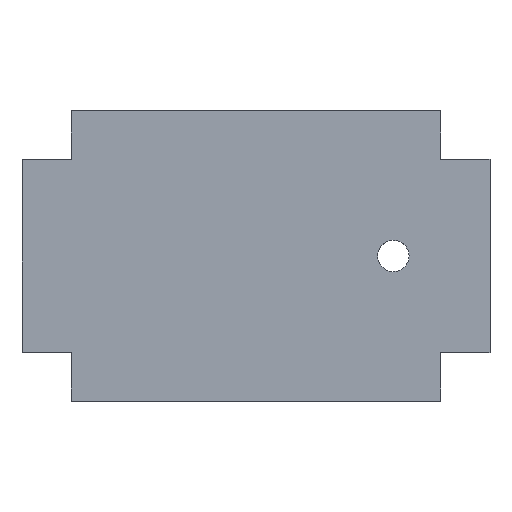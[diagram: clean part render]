
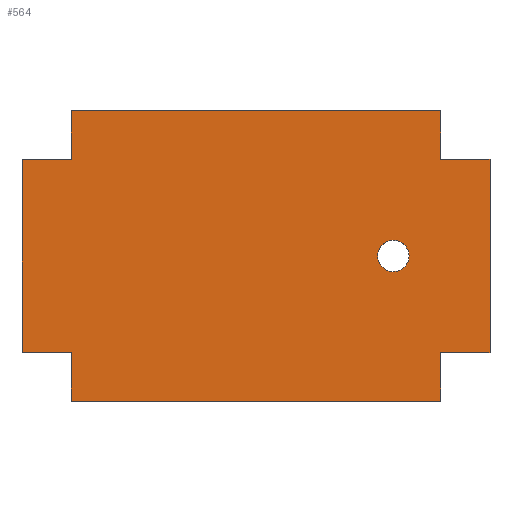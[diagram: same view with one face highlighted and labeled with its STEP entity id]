
A CAD part, top view. The second image highlights one B-rep face of the part: STEP entity #564.
In plain terms, the highlighted planar face has unit normal (0, 0, 1).
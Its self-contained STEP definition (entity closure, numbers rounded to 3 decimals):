
#57=CARTESIAN_POINT('Line Origine',(141.381,148.875,391.147)) ;
#61=CARTESIAN_POINT('Vertex',(141.381,158.875,391.147)) ;
#63=CARTESIAN_POINT('Vertex',(141.381,138.875,391.147)) ;
#97=CARTESIAN_POINT('Line Origine',(136.281,138.875,391.147)) ;
#101=CARTESIAN_POINT('Vertex',(131.181,138.875,391.147)) ;
#128=CARTESIAN_POINT('Line Origine',(131.181,133.866,391.147)) ;
#132=CARTESIAN_POINT('Vertex',(131.181,128.856,391.147)) ;
#159=CARTESIAN_POINT('Line Origine',(92.99,128.856,391.147)) ;
#163=CARTESIAN_POINT('Vertex',(54.8,128.856,391.147)) ;
#190=CARTESIAN_POINT('Line Origine',(54.8,133.866,391.147)) ;
#194=CARTESIAN_POINT('Vertex',(54.8,138.875,391.147)) ;
#216=CARTESIAN_POINT('Line Origine',(49.7,138.875,391.147)) ;
#220=CARTESIAN_POINT('Vertex',(44.6,138.875,391.147)) ;
#247=CARTESIAN_POINT('Line Origine',(44.6,148.875,391.147)) ;
#251=CARTESIAN_POINT('Vertex',(44.6,158.875,391.147)) ;
#273=CARTESIAN_POINT('Line Origine',(44.6,168.875,391.147)) ;
#277=CARTESIAN_POINT('Vertex',(44.6,178.875,391.147)) ;
#304=CARTESIAN_POINT('Line Origine',(49.7,178.875,391.147)) ;
#308=CARTESIAN_POINT('Vertex',(54.8,178.875,391.147)) ;
#330=CARTESIAN_POINT('Line Origine',(54.8,183.885,391.147)) ;
#334=CARTESIAN_POINT('Vertex',(54.8,188.894,391.147)) ;
#361=CARTESIAN_POINT('Line Origine',(92.99,188.894,391.147)) ;
#365=CARTESIAN_POINT('Vertex',(131.181,188.894,391.147)) ;
#387=CARTESIAN_POINT('Line Origine',(131.181,183.885,391.147)) ;
#391=CARTESIAN_POINT('Vertex',(131.181,178.875,391.147)) ;
#413=CARTESIAN_POINT('Line Origine',(136.281,178.875,391.147)) ;
#417=CARTESIAN_POINT('Vertex',(141.381,178.875,391.147)) ;
#439=CARTESIAN_POINT('Line Origine',(141.381,168.875,391.147)) ;
#467=CARTESIAN_POINT('Vertex',(118.131,158.875,391.147)) ;
#481=CARTESIAN_POINT('Vertex',(124.631,158.875,391.147)) ;
#484=CARTESIAN_POINT('Axis2P3D Location',(121.381,158.875,391.147)) ;
#501=CARTESIAN_POINT('Axis2P3D Location',(121.381,158.875,391.147)) ;
#539=CARTESIAN_POINT('Axis2P3D Location',(0.,0.,391.147)) ;
#58=DIRECTION('Vector Direction',(0.,-1.,0.)) ;
#98=DIRECTION('Vector Direction',(-1.,0.,0.)) ;
#129=DIRECTION('Vector Direction',(0.,-1.,0.)) ;
#160=DIRECTION('Vector Direction',(-1.,0.,0.)) ;
#191=DIRECTION('Vector Direction',(0.,1.,0.)) ;
#217=DIRECTION('Vector Direction',(-1.,0.,0.)) ;
#248=DIRECTION('Vector Direction',(0.,1.,0.)) ;
#274=DIRECTION('Vector Direction',(0.,-1.,0.)) ;
#305=DIRECTION('Vector Direction',(-1.,0.,0.)) ;
#331=DIRECTION('Vector Direction',(0.,-1.,0.)) ;
#362=DIRECTION('Vector Direction',(-1.,0.,0.)) ;
#388=DIRECTION('Vector Direction',(0.,1.,0.)) ;
#414=DIRECTION('Vector Direction',(-1.,0.,0.)) ;
#440=DIRECTION('Vector Direction',(0.,1.,0.)) ;
#485=DIRECTION('Axis2P3D Direction',(0.,0.,-1.)) ;
#502=DIRECTION('Axis2P3D Direction',(0.,0.,-1.)) ;
#540=DIRECTION('Axis2P3D Direction',(0.,0.,-1.)) ;
#541=DIRECTION('Axis2P3D XDirection',(1.,0.,0.)) ;
#486=AXIS2_PLACEMENT_3D('Circle Axis2P3D',#484,#485,$) ;
#503=AXIS2_PLACEMENT_3D('Circle Axis2P3D',#501,#502,$) ;
#542=AXIS2_PLACEMENT_3D('Plane Axis2P3D',#539,#540,#541) ;
#545=ORIENTED_EDGE('',*,*,#443,.F.) ;
#546=ORIENTED_EDGE('',*,*,#419,.F.) ;
#547=ORIENTED_EDGE('',*,*,#393,.F.) ;
#548=ORIENTED_EDGE('',*,*,#367,.F.) ;
#549=ORIENTED_EDGE('',*,*,#336,.F.) ;
#550=ORIENTED_EDGE('',*,*,#310,.F.) ;
#551=ORIENTED_EDGE('',*,*,#279,.F.) ;
#552=ORIENTED_EDGE('',*,*,#253,.F.) ;
#553=ORIENTED_EDGE('',*,*,#222,.F.) ;
#554=ORIENTED_EDGE('',*,*,#196,.F.) ;
#555=ORIENTED_EDGE('',*,*,#165,.F.) ;
#556=ORIENTED_EDGE('',*,*,#134,.F.) ;
#557=ORIENTED_EDGE('',*,*,#103,.F.) ;
#558=ORIENTED_EDGE('',*,*,#65,.F.) ;
#561=ORIENTED_EDGE('',*,*,#505,.T.) ;
#562=ORIENTED_EDGE('',*,*,#488,.T.) ;
#563=FACE_BOUND('',#560,.T.) ;
#59=VECTOR('Line Direction',#58,1.) ;
#99=VECTOR('Line Direction',#98,1.) ;
#130=VECTOR('Line Direction',#129,1.) ;
#161=VECTOR('Line Direction',#160,1.) ;
#192=VECTOR('Line Direction',#191,1.) ;
#218=VECTOR('Line Direction',#217,1.) ;
#249=VECTOR('Line Direction',#248,1.) ;
#275=VECTOR('Line Direction',#274,1.) ;
#306=VECTOR('Line Direction',#305,1.) ;
#332=VECTOR('Line Direction',#331,1.) ;
#363=VECTOR('Line Direction',#362,1.) ;
#389=VECTOR('Line Direction',#388,1.) ;
#415=VECTOR('Line Direction',#414,1.) ;
#441=VECTOR('Line Direction',#440,1.) ;
#564=ADVANCED_FACE('PartBody',(#559,#563),#543,.F.) ;
#487=CIRCLE('generated circle',#486,3.25) ;
#504=CIRCLE('generated circle',#503,3.25) ;
#65=EDGE_CURVE('',#62,#64,#60,.T.) ;
#103=EDGE_CURVE('',#64,#102,#100,.T.) ;
#134=EDGE_CURVE('',#102,#133,#131,.T.) ;
#165=EDGE_CURVE('',#133,#164,#162,.T.) ;
#196=EDGE_CURVE('',#164,#195,#193,.T.) ;
#222=EDGE_CURVE('',#195,#221,#219,.T.) ;
#253=EDGE_CURVE('',#221,#252,#250,.T.) ;
#279=EDGE_CURVE('',#252,#278,#276,.F.) ;
#310=EDGE_CURVE('',#278,#309,#307,.F.) ;
#336=EDGE_CURVE('',#309,#335,#333,.F.) ;
#367=EDGE_CURVE('',#335,#366,#364,.F.) ;
#393=EDGE_CURVE('',#366,#392,#390,.F.) ;
#419=EDGE_CURVE('',#392,#418,#416,.F.) ;
#443=EDGE_CURVE('',#418,#62,#442,.F.) ;
#488=EDGE_CURVE('',#468,#482,#487,.T.) ;
#505=EDGE_CURVE('',#482,#468,#504,.T.) ;
#544=EDGE_LOOP('',(#545,#546,#547,#548,#549,#550,#551,#552,#553,#554,#555,#556,#557,#558)) ;
#560=EDGE_LOOP('',(#561,#562)) ;
#559=FACE_OUTER_BOUND('',#544,.T.) ;
#60=LINE('Line',#57,#59) ;
#100=LINE('Line',#97,#99) ;
#131=LINE('Line',#128,#130) ;
#162=LINE('Line',#159,#161) ;
#193=LINE('Line',#190,#192) ;
#219=LINE('Line',#216,#218) ;
#250=LINE('Line',#247,#249) ;
#276=LINE('Line',#273,#275) ;
#307=LINE('Line',#304,#306) ;
#333=LINE('Line',#330,#332) ;
#364=LINE('Line',#361,#363) ;
#390=LINE('Line',#387,#389) ;
#416=LINE('Line',#413,#415) ;
#442=LINE('Line',#439,#441) ;
#543=PLANE('Plane',#542) ;
#62=VERTEX_POINT('',#61) ;
#64=VERTEX_POINT('',#63) ;
#102=VERTEX_POINT('',#101) ;
#133=VERTEX_POINT('',#132) ;
#164=VERTEX_POINT('',#163) ;
#195=VERTEX_POINT('',#194) ;
#221=VERTEX_POINT('',#220) ;
#252=VERTEX_POINT('',#251) ;
#278=VERTEX_POINT('',#277) ;
#309=VERTEX_POINT('',#308) ;
#335=VERTEX_POINT('',#334) ;
#366=VERTEX_POINT('',#365) ;
#392=VERTEX_POINT('',#391) ;
#418=VERTEX_POINT('',#417) ;
#468=VERTEX_POINT('',#467) ;
#482=VERTEX_POINT('',#481) ;
